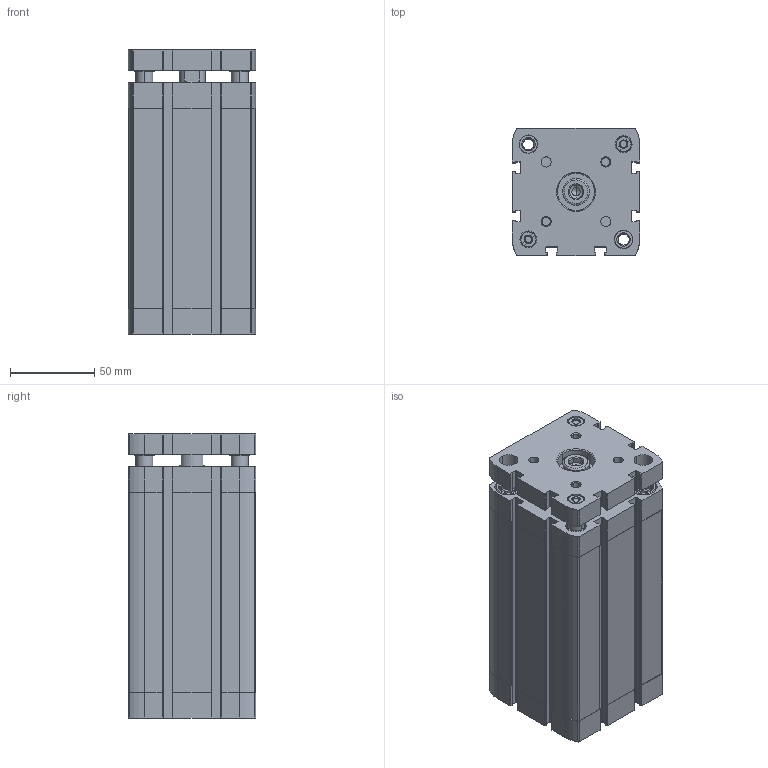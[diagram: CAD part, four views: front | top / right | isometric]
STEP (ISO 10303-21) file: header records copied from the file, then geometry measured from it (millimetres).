
FILE_DESCRIPTION (( 'STEP AP203' ), '1' );
FILE_NAME ('CCNG63-100.STEP', '2017-04-20T16:29:21', ( '' ), ( '' ), 'SwSTEP 2.0', 'SolidWorks 2016', '' );
FILE_SCHEMA (( 'CONFIG_CONTROL_DESIGN' ));
Length unit declared in the file: millimetre
Products named in the file (3): CCNG-63-100----(KS); CCNG63-100; CCNG-63-100----(Z)
Assembly tree (2 placements, depth 2):
  CCNG63-100
    CCNG-63-100----(Z)
    CCNG-63-100----(KS)
Bounding box: 75.5 x 75.5 x 168.5 mm (x, y, z)
Volume: 551998 mm3; surface area: 157694.9 mm2
Topology: 2 solids, 4 shells, 714 faces, 1928 edges, 1265 vertices
Faces by surface type: plane 358, cylinder 278, cone 72, bspline 6
Entity records: 23171 total; most frequent: CARTESIAN_POINT 4446, DIRECTION 3968, ORIENTED_EDGE 3852, EDGE_CURVE 1926, AXIS2_PLACEMENT_3D 1463, VERTEX_POINT 1265, VECTOR 1042, LINE 1042
